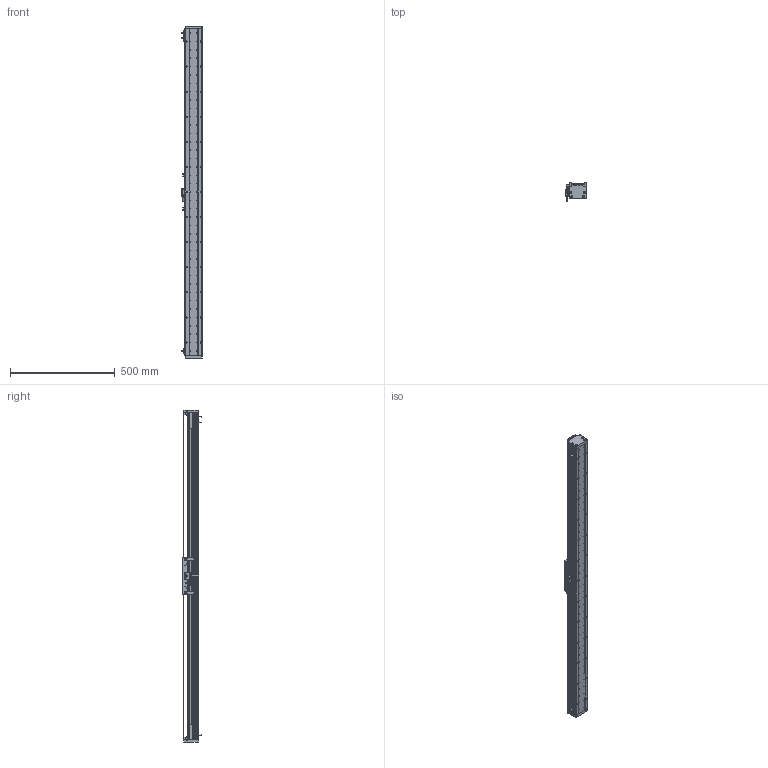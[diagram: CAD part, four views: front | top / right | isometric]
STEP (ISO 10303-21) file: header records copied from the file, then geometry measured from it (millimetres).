
FILE_DESCRIPTION (( 'STEP AP203' ), '1' );
FILE_NAME ('DA-A82-B2-T1340-C010-0.2 眻盄萇儂.STEP', '2025-08-13T03:09:41', ( '' ), ( '' ), 'SwSTEP 2.0', 'SolidWorks 2019', '' );
FILE_SCHEMA (( 'CONFIG_CONTROL_DESIGN' ));
Length unit declared in the file: millimetre
Products named in the file (23): 葩璃 BKM01-W040-TRL^DA-A82-B2-T-C010-0.2; IU-AU82-L 菁釱絳寢; DA-A60-GYP-DMT-00 光电感应片^DA-A82-B2-T-C010-0.2(默认); 葩璃 DA82-B2-DP-00 結え^AU82-M 幗紩賑怢; 葩璃 DA60-DMT-DTJ-00 黍杅芛盓殤^DA-A82-B2-T-C010-0.2; 葩璃 葩璃 17517-0000-002-00 傷啣^DA-A82-B2-T-C010-0.2; 葩璃 XD-U-02  棠掑喜^DA-A82-B2-T-C010-0.2; 葩璃 DMT-010 1米m 0.2M^DA-A82-B2-T-C010-0.2; AU82-HT-M-00 賑雄怢啣; AU82-M 幗紩賑怢; ｸｴｼ BKM02-W040-C1-TP-DA-3.0 ﾖｱﾏﾟｵ扈巐ｯﾗﾓ^DA-A82-B2-T-C010-0.2; 复件 复件 17517-0000-003-00 钢带拉块^DA-A82-B2-T-C010-0.2; IU-AU82-L-00 菁釱(L1560); 复件 DA95-GT-T-00 底座钢轨^IU-AU82-L 底座导轨; 复件 复件 复件 DA82 钢带盖板^DA-A82-B2-T-C010-0.2(默认); 葩璃 PM-T45^DA-A82-B2-T-C010-0.2; DA-A82-B2-T1340-C010-0.2 眻盄萇儂; 复件 复件 17517-0000-004-00  钢带压块^DA-A82-B2-T-C010-0.2(默认); AU82-M-00 珨极趙賑雄怢啣; 复件 DA95-B2-GT-00 滑块钢轨^AU82-M-00 一体化滑动台板; 葩璃 鞠褒情蹟譫 M3^DA-A82-B2-T-C010-0.2; 复件 纯铜油杯 6x6mm^AU82-M 滚珠滑台; 复件 复件 DA82-XJ-00 缓冲橡胶^DA-A82-B2-T-C010-0.2
Assembly tree (40 placements, depth 4):
  DA-A82-B2-T1340-C010-0.2 眻盄萇儂
    IU-AU82-L 菁釱絳寢
      IU-AU82-L-00 菁釱(L1560)
      复件 DA95-GT-T-00 底座钢轨^IU-AU82-L 底座导轨  x2
    AU82-M 幗紩賑怢
      AU82-M-00 珨极趙賑雄怢啣
        AU82-HT-M-00 賑雄怢啣
        复件 DA95-B2-GT-00 滑块钢轨^AU82-M-00 一体化滑动台板  x4
      葩璃 DA82-B2-DP-00 結え^AU82-M 幗紩賑怢  x2
      复件 纯铜油杯 6x6mm^AU82-M 滚珠滑台  x2
    葩璃 DA60-DMT-DTJ-00 黍杅芛盓殤^DA-A82-B2-T-C010-0.2
    葩璃 DMT-010 1米m 0.2M^DA-A82-B2-T-C010-0.2
    DA-A60-GYP-DMT-00 光电感应片^DA-A82-B2-T-C010-0.2(默认)  x2
    ｸｴｼ BKM02-W040-C1-TP-DA-3.0 ﾖｱﾏﾟｵ扈巐ｯﾗﾓ^DA-A82-B2-T-C010-0.2
    复件 复件 17517-0000-003-00 钢带拉块^DA-A82-B2-T-C010-0.2  x2
    复件 复件 DA82-XJ-00 缓冲橡胶^DA-A82-B2-T-C010-0.2  x2
    复件 复件 17517-0000-004-00  钢带压块^DA-A82-B2-T-C010-0.2(默认)  x2
    葩璃 葩璃 17517-0000-002-00 傷啣^DA-A82-B2-T-C010-0.2  x2
    复件 复件 复件 DA82 钢带盖板^DA-A82-B2-T-C010-0.2(默认)
    葩璃 BKM01-W040-TRL^DA-A82-B2-T-C010-0.2
    葩璃 PM-T45^DA-A82-B2-T-C010-0.2  x3
    葩璃 XD-U-02  棠掑喜^DA-A82-B2-T-C010-0.2
    葩璃 鞠褒情蹟譫 M3^DA-A82-B2-T-C010-0.2  x6
Bounding box: 98.95 x 87.2 x 1588 mm (x, y, z)
Volume: 4603893.7 mm3; surface area: 1394685.3 mm2
Topology: 44 solids, 68 shells, 2379 faces, 6296 edges, 3970 vertices
Faces by surface type: cylinder 1169, plane 920, cone 272, bspline 8, torus 8, sphere 2
Entity records: 65693 total; most frequent: CARTESIAN_POINT 14815, DIRECTION 10295, ORIENTED_EDGE 9696, EDGE_CURVE 4848, AXIS2_PLACEMENT_3D 3945, VERTEX_POINT 3154, EDGE_LOOP 2474, VECTOR 2405
